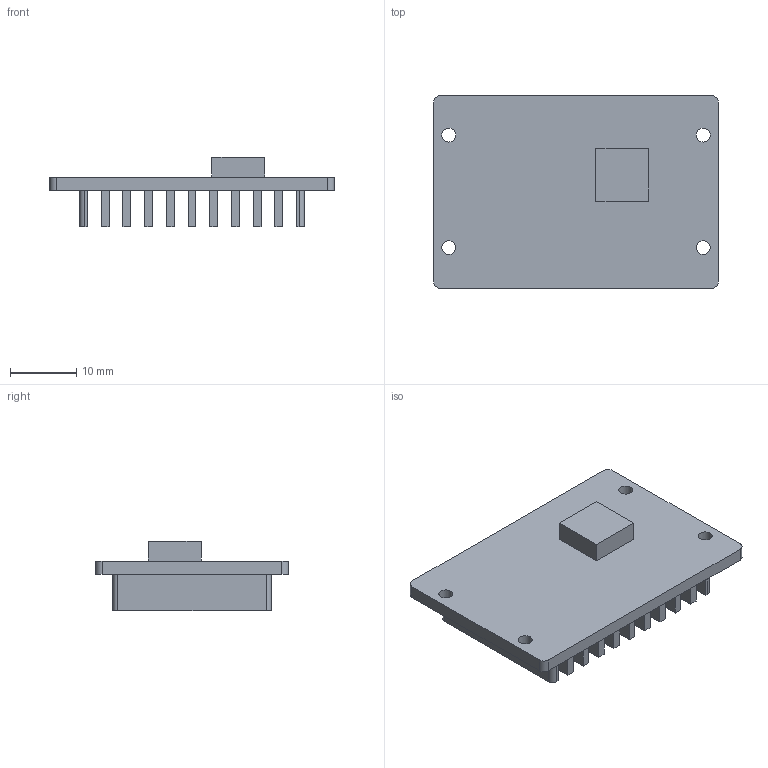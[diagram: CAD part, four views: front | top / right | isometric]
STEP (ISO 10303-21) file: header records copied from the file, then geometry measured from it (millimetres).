
FILE_DESCRIPTION(('Open CASCADE Model'),'2;1');
FILE_NAME('Open CASCADE Shape Model','2026-11-10T13:03:27',('Author'),( 'Open CASCADE'),'Open CASCADE STEP processor 7.7','Open CASCADE 7.7' ,'Unknown');
FILE_SCHEMA(('AUTOMOTIVE_DESIGN { 1 0 10303 214 1 1 1 1 }'));
Length unit declared in the file: millimetre
Products named in the file (1): Open CASCADE STEP translator 7.7 6
Bounding box: 43 x 29.2 x 10.5 mm (x, y, z)
Volume: 4413.2 mm3; surface area: 5957.6 mm2
Topology: 1 solids, 1 shells, 78 faces, 192 edges, 128 vertices
Faces by surface type: plane 66, cylinder 12
Full cylindrical faces by diameter (mm): 2.1 x4
Entity records: 4700 total; most frequent: CARTESIAN_POINT 1011, DIRECTION 600, ORIENTED_EDGE 384, LINE 384, VECTOR 384, PCURVE 384, DEFINITIONAL_REPRESENTATION 384, EDGE_CURVE 192
